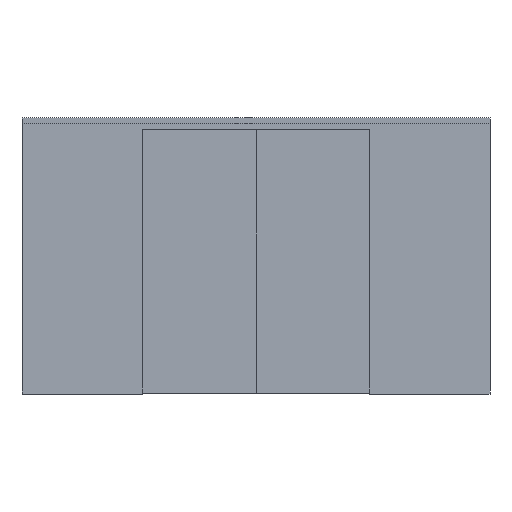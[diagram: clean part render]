
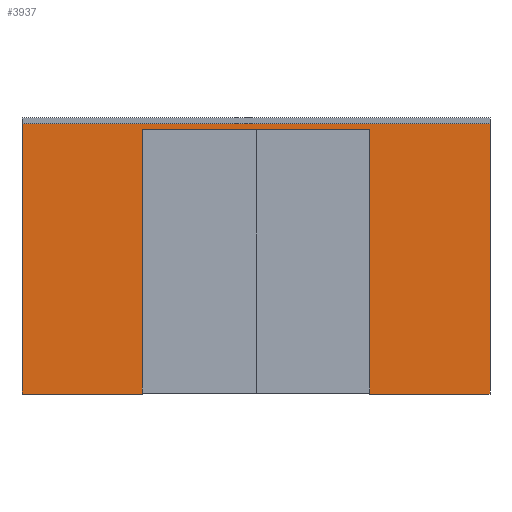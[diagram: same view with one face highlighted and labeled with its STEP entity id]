
A CAD part, front view. The second image highlights one B-rep face of the part: STEP entity #3937.
In plain terms, the highlighted planar face has unit normal (0, -1, 0).
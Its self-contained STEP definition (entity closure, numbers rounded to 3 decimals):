
#3937=ADVANCED_FACE('',(#8079),#8080,.F.);
#8079=FACE_OUTER_BOUND('',#12349,.T.);
#8080=PLANE('',#12350);
#12349=EDGE_LOOP('',(#22865,#22866,#22867,#22868,#22869,#22870,#22871,#22872));
#12350=AXIS2_PLACEMENT_3D('',#22873,#22874,#22875);
#22865=ORIENTED_EDGE('',*,*,#29163,.F.);
#22866=ORIENTED_EDGE('',*,*,#29153,.F.);
#22867=ORIENTED_EDGE('',*,*,#29157,.F.);
#22868=ORIENTED_EDGE('',*,*,#29161,.T.);
#22869=ORIENTED_EDGE('',*,*,#29164,.F.);
#22870=ORIENTED_EDGE('',*,*,#29146,.F.);
#22871=ORIENTED_EDGE('',*,*,#29142,.T.);
#22872=ORIENTED_EDGE('',*,*,#29138,.T.);
#22873=CARTESIAN_POINT('',(0.0,-44.,2333.0));
#22874=DIRECTION('',(0.0,1.0,-0.0));
#22875=DIRECTION('',(0.0,0.0,1.0));
#29138=EDGE_CURVE('',#35633,#35630,#35634,.T.);
#29142=EDGE_CURVE('',#35639,#35633,#35640,.T.);
#29146=EDGE_CURVE('',#35639,#35645,#35646,.T.);
#29153=EDGE_CURVE('',#35656,#35651,#35658,.T.);
#29157=EDGE_CURVE('',#35662,#35656,#35664,.T.);
#29161=EDGE_CURVE('',#35662,#35668,#35670,.T.);
#29163=EDGE_CURVE('',#35651,#35630,#35672,.T.);
#29164=EDGE_CURVE('',#35645,#35668,#35673,.T.);
#35630=VERTEX_POINT('',#44513);
#35633=VERTEX_POINT('',#44517);
#35634=LINE('',#44518,#44519);
#35639=VERTEX_POINT('',#44526);
#35640=LINE('',#44527,#44528);
#35645=VERTEX_POINT('',#44535);
#35646=LINE('',#44536,#44537);
#35651=VERTEX_POINT('',#44544);
#35656=VERTEX_POINT('',#44551);
#35658=LINE('',#44554,#44555);
#35662=VERTEX_POINT('',#44560);
#35664=LINE('',#44563,#44564);
#35668=VERTEX_POINT('',#44569);
#35670=LINE('',#44572,#44573);
#35672=LINE('',#44575,#44576);
#35673=LINE('',#44577,#44578);
#44513=CARTESIAN_POINT('',(-995.0,-44.,2314.0));
#44517=CARTESIAN_POINT('',(-995.0,-44.,0.0));
#44518=CARTESIAN_POINT('',(-995.0,-44.,7.0));
#44519=VECTOR('',#51091,1.0);
#44526=CARTESIAN_POINT('',(-2050.0,-44.,0.0));
#44527=CARTESIAN_POINT('',(-1327.5,-44.,0.0));
#44528=VECTOR('',#51094,1.0);
#44535=CARTESIAN_POINT('',(-2050.0,-44.,2368.0));
#44536=CARTESIAN_POINT('',(-2050.0,-44.,7.0));
#44537=VECTOR('',#51097,1.0);
#44544=CARTESIAN_POINT('',(995.0,-44.,2314.0));
#44551=CARTESIAN_POINT('',(995.0,-44.,0.0));
#44554=CARTESIAN_POINT('',(995.0,-44.,7.0));
#44555=VECTOR('',#51103,1.0);
#44560=CARTESIAN_POINT('',(2050.0,-44.,0.0));
#44563=CARTESIAN_POINT('',(1327.5,-44.,0.0));
#44564=VECTOR('',#51106,1.0);
#44569=CARTESIAN_POINT('',(2050.0,-44.,2368.0));
#44572=CARTESIAN_POINT('',(2050.0,-44.,7.0));
#44573=VECTOR('',#51109,1.0);
#44575=CARTESIAN_POINT('',(0.0,-44.,2314.0));
#44576=VECTOR('',#51110,1.0);
#44577=CARTESIAN_POINT('',(1270.0,-44.,2368.0));
#44578=VECTOR('',#51111,1.0);
#51091=DIRECTION('',(0.0,0.0,1.0));
#51094=DIRECTION('',(1.0,0.0,0.0));
#51097=DIRECTION('',(0.0,0.0,1.0));
#51103=DIRECTION('',(0.0,0.0,1.0));
#51106=DIRECTION('',(-1.0,0.0,0.0));
#51109=DIRECTION('',(0.0,0.0,1.0));
#51110=DIRECTION('',(-1.0,0.0,0.0));
#51111=DIRECTION('',(1.0,0.0,0.0));
